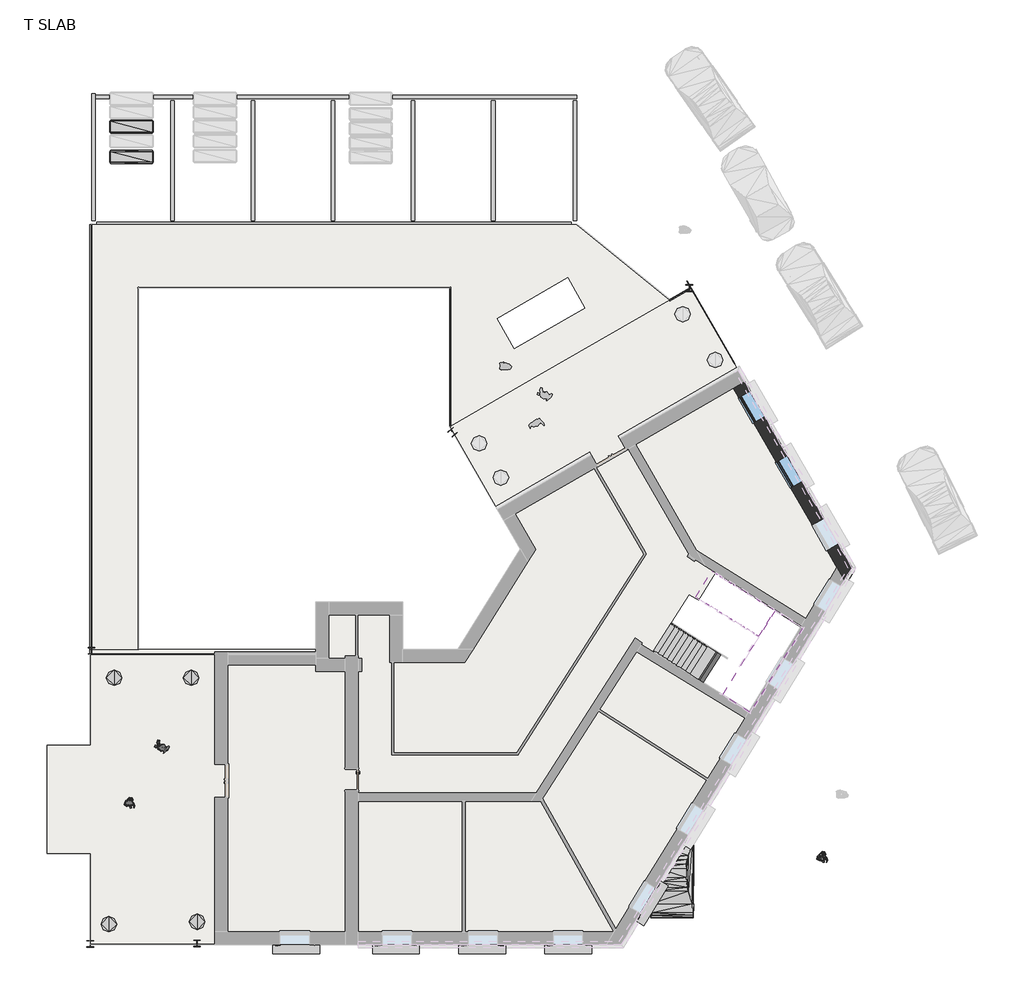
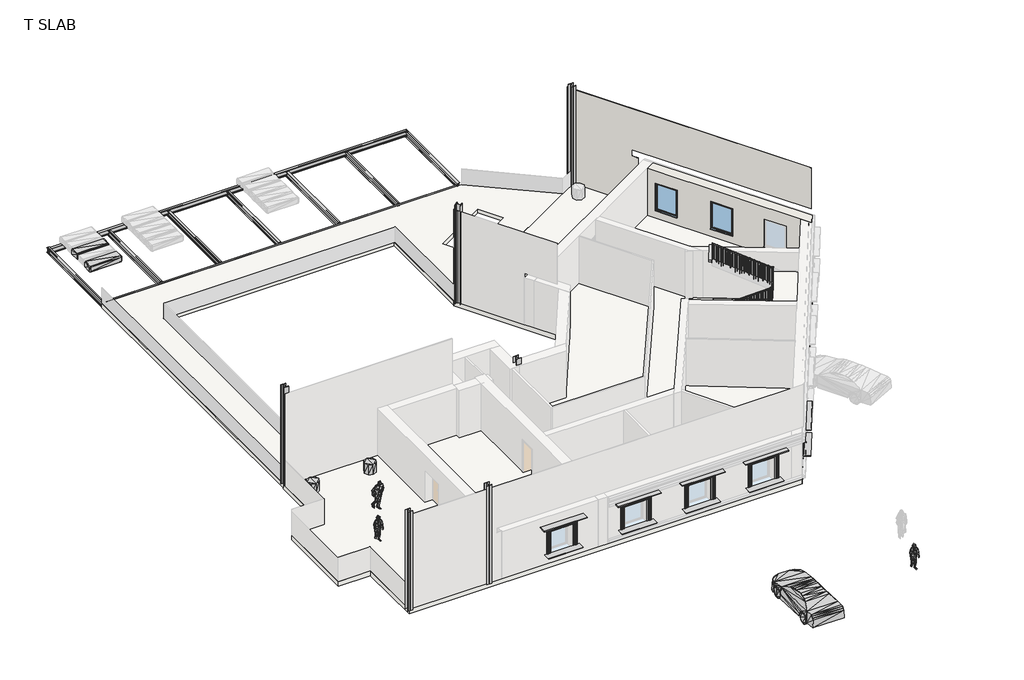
# One storey, part 2 of 3: 10 beams, 10 geographic elements, 6 columns, 5 proxies, 3 slabs, 2 stair flights, 2 walls, 2 windows, 1 railing.
"""IFC4 building model written with IfcOpenShell, lengths in millimetres."""

from ifc_helpers import new_model, si_unit, frame, origin, place, context, project, spatial, polyline, outline, extrude, faceted_brep, transform, mapped, element, save
from components import ub_universal_beams_ub305x165x40_099205f2, ub_universal_beams_ub305x165x40_a89eb652, ub_universal_beams_ub305x165x40_de42b84e, ub_universal_beams_ub305x165x40_bd95d4e6, type_1_d73fb033, uc_universal_columns_column_uc305x305x97_0a087ea8, uc_universal_columns_column_uc305x305x97_0b574c11, geographic_element_3335acbb, geographic_element_6e2c9092, geographic_element_3de9c337, geographic_element_529ebcd5, enscape_assetdefinition_car_003_enscape_assetdefinition_car_cb408bfd, slab_8b328c32, wood_steps_w_50mm_tread_10mm_nosing_13mm_riser_624c92ec, wood_steps_w_50mm_tread_10mm_nosing_13mm_riser_1bc18a41, windows_sgl_plain_1360x1210mm_ccfeedc9

model = new_model("IFC4")

# Units and contexts
model_context = context("Model", 3, world=origin())
ifc_project = project(units=[si_unit("LENGTHUNIT", "METRE", prefix="MILLI")], contexts=[model_context])

# Site, building, storey
site = spatial("IfcSite", under=ifc_project)
building = spatial("IfcBuilding", under=site)
storey = spatial("IfcBuildingStorey", under=building, Name="T SLAB", Elevation=11500.0)

# Beams
placement = place(None, origin())
ub_universal_beams_ub305x165x40_shape = ub_universal_beams_ub305x165x40_099205f2(model_context)
element("IfcBeam", 1, ObjectType="UB-Universal Beams : UB305x165x40", at=placement, inside=storey, context=model_context, shape_type="MappedRepresentation", body=[
    mapped(ub_universal_beams_ub305x165x40_shape, transform((-13277.0617256, 32121.0048994, 11348.3), x_axis=(0.0, -1.0, 0.0), y_axis=(1.0, 0.0, 0.0), z_axis=(0.0, 0.0, 1.0))),
])
ub_universal_beams_ub305x165x40_2_shape = ub_universal_beams_ub305x165x40_a89eb652(model_context)
element("IfcBeam", 2, ObjectType="UB-Universal Beams : UB305x165x40", at=placement, inside=storey, context=model_context, shape_type="MappedRepresentation", body=[
    mapped(ub_universal_beams_ub305x165x40_2_shape, transform((3293.8958184, 35051.9809735, 11348.3), x_axis=(1.0, 0.0, 0.0), y_axis=(0.0, 1.0, 0.0), z_axis=(0.0, 0.0, 1.0))),
])
ub_universal_beams_ub305x165x40_3_shape = ub_universal_beams_ub305x165x40_de42b84e(model_context)
element("IfcBeam", 3, ObjectType="UB-Universal Beams : UB305x165x40", at=placement, inside=storey, context=model_context, shape_type="MappedRepresentation", body=[
    mapped(ub_universal_beams_ub305x165x40_3_shape, transform((-2187.5596017, 29190.0288254, 11348.3), x_axis=(1.0, 0.0, 0.0), y_axis=(0.0, 1.0, 0.0), z_axis=(0.0, 0.0, 1.0))),
])
ub_universal_beams_ub305x165x40_4_shape = ub_universal_beams_ub305x165x40_bd95d4e6(model_context)
element("IfcBeam", 4, ObjectType="UB-Universal Beams : UB305x165x40", at=placement, inside=storey, context=model_context, shape_type="MappedRepresentation", body=[
    mapped(ub_universal_beams_ub305x165x40_4_shape, transform((-13277.0617256, 32121.0048994, 11348.3), x_axis=(0.0, -1.0, 0.0), y_axis=(1.0, 0.0, 0.0), z_axis=(0.0, 0.0, 1.0))),
])
element("IfcBeam", 5, ObjectType="UB-Universal Beams : UB305x165x40", at=placement, inside=storey, context=model_context, shape_type="MappedRepresentation", body=[
    mapped(ub_universal_beams_ub305x165x40_4_shape, transform((-9631.6874983, 32121.0048994, 11348.3), x_axis=(0.0, -1.0, 0.0), y_axis=(1.0, 0.0, 0.0), z_axis=(0.0, 0.0, 1.0))),
])
element("IfcBeam", 6, ObjectType="UB-Universal Beams : UB305x165x40", at=placement, inside=storey, context=model_context, shape_type="MappedRepresentation", body=[
    mapped(ub_universal_beams_ub305x165x40_4_shape, transform((-5929.1066547, 32121.0048994, 11348.3), x_axis=(0.0, -1.0, 0.0), y_axis=(1.0, 0.0, 0.0), z_axis=(0.0, 0.0, 1.0))),
])
element("IfcBeam", 7, ObjectType="UB-Universal Beams : UB305x165x40", at=placement, inside=storey, context=model_context, shape_type="MappedRepresentation", body=[
    mapped(ub_universal_beams_ub305x165x40_4_shape, transform((-2245.9725728, 32121.0048994, 11348.3), x_axis=(0.0, -1.0, 0.0), y_axis=(1.0, 0.0, 0.0), z_axis=(0.0, 0.0, 1.0))),
])
element("IfcBeam", 8, ObjectType="UB-Universal Beams : UB305x165x40", at=placement, inside=storey, context=model_context, shape_type="MappedRepresentation", body=[
    mapped(ub_universal_beams_ub305x165x40_4_shape, transform((1448.4037035, 32121.0048994, 11348.3), x_axis=(0.0, -1.0, 0.0), y_axis=(1.0, 0.0, 0.0), z_axis=(0.0, 0.0, 1.0))),
])
element("IfcBeam", 9, ObjectType="UB-Universal Beams : UB305x165x40", at=placement, inside=storey, context=model_context, shape_type="MappedRepresentation", body=[
    mapped(ub_universal_beams_ub305x165x40_4_shape, transform((5139.3879332, 32121.0048994, 11348.3), x_axis=(0.0, -1.0, 0.0), y_axis=(1.0, 0.0, 0.0), z_axis=(0.0, 0.0, 1.0))),
])
element("IfcBeam", 10, ObjectType="UB-Universal Beams : UB305x165x40", at=placement, inside=storey, context=model_context, shape_type="MappedRepresentation", body=[
    mapped(ub_universal_beams_ub305x165x40_4_shape, transform((8901.9425222, 32121.0048994, 11348.3), x_axis=(0.0, -1.0, 0.0), y_axis=(1.0, 0.0, 0.0), z_axis=(0.0, 0.0, 1.0))),
])

# Proxies
type_1_shape = type_1_d73fb033(model_context)
element("IfcBuildingElementProxy", 11, Name="Family1.rfa1222wcd31 : Type 1", ObjectType="Family1.rfa1222wcd31 : Type 1", at=placement, inside=storey, context=model_context, shape_type="MappedRepresentation", body=[
    mapped(type_1_shape, transform((787.4297578, -3709.9711746, 11250.0), x_axis=(-1.0, 0.0, 0.0), y_axis=(0.0, -1.0, 0.0), z_axis=(0.0, 0.0, 1.0))),
])
element("IfcBuildingElementProxy", 12, Name="Family1.rfa1222wcd31 : Type 1", ObjectType="Family1.rfa1222wcd31 : Type 1", at=placement, inside=storey, context=model_context, shape_type="MappedRepresentation", body=[
    mapped(type_1_shape, transform((4767.115647, -3709.9711746, 11250.0), x_axis=(-1.0, 0.0, 0.0), y_axis=(0.0, -1.0, 0.0), z_axis=(0.0, 0.0, 1.0))),
])
element("IfcBuildingElementProxy", 13, Name="Family1.rfa1222wcd31 : Type 1", ObjectType="Family1.rfa1222wcd31 : Type 1", at=placement, inside=storey, context=model_context, shape_type="MappedRepresentation", body=[
    mapped(type_1_shape, transform((8719.9297578, -3709.9711746, 11250.0), x_axis=(-1.0, 0.0, 0.0), y_axis=(0.0, -1.0, 0.0), z_axis=(0.0, 0.0, 1.0))),
])
element("IfcBuildingElementProxy", 14, Name="Family1.rfa1222wcd31 : Type 1", ObjectType="Family1.rfa1222wcd31 : Type 1", at=placement, inside=storey, context=model_context, shape_type="MappedRepresentation", body=[
    mapped(type_1_shape, transform((12078.6623921, -1732.8646574, 11250.0), x_axis=(-0.5221151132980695, -0.852875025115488, 0.0), y_axis=(0.852875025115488, -0.5221151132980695, 0.0), z_axis=(0.0, 0.0, 1.0))),
])
element("IfcBuildingElementProxy", 15, Name="Family1.rfa1222wcd31 : Type 1", ObjectType="Family1.rfa1222wcd31 : Type 1", at=placement, inside=storey, context=model_context, shape_type="MappedRepresentation", body=[
    mapped(type_1_shape, transform((-3812.5702422, -3709.9711746, 11250.0), x_axis=(-1.0, 0.0, 0.0), y_axis=(0.0, -1.0, 0.0), z_axis=(0.0, 0.0, 1.0))),
])

# Columns
uc_universal_columns_column_uc305x305x97_shape = uc_universal_columns_column_uc305x305x97_0a087ea8(model_context)
element("IfcColumn", 16, ObjectType="UC-Universal Columns-Column : UC305x305x97", at=placement, inside=storey, context=model_context, shape_type="MappedRepresentation", body=[
    mapped(uc_universal_columns_column_uc305x305x97_shape, transform((-13419.4830526, -3973.717828, 0.0), x_axis=(1.0, 0.0, 0.0), y_axis=(0.0, 1.0, 0.0), z_axis=(0.0, 0.0, 1.0))),
])
element("IfcColumn", 17, ObjectType="UC-Universal Columns-Column : UC305x305x97", at=placement, inside=storey, context=model_context, shape_type="MappedRepresentation", body=[
    mapped(uc_universal_columns_column_uc305x305x97_shape, transform((-8502.2047689, -3955.7715569, 0.0), x_axis=(1.0, 0.0, 0.0), y_axis=(0.0, 1.0, 0.0), z_axis=(0.0, 0.0, 1.0))),
])
element("IfcColumn", 18, ObjectType="UC-Universal Columns-Column : UC305x305x97", at=placement, inside=storey, context=model_context, shape_type="MappedRepresentation", body=[
    mapped(uc_universal_columns_column_uc305x305x97_shape, transform((14168.507551, 26241.6477094, 0.0), x_axis=(1.0, 0.0, 0.0), y_axis=(0.0, 1.0, 0.0), z_axis=(0.0, 0.0, 1.0))),
])
element("IfcColumn", 19, ObjectType="UC-Universal Columns-Column : UC305x305x97", at=placement, inside=storey, context=model_context, shape_type="MappedRepresentation", body=[
    mapped(uc_universal_columns_column_uc305x305x97_shape, transform((3271.8201957, 19603.9657214, 0.0), x_axis=(0.7605099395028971, 0.6493262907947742, 0.0), y_axis=(-0.6493262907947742, 0.7605099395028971, 0.0), z_axis=(0.0, 0.0, 1.0))),
])
element("IfcColumn", 20, ObjectType="UC-Universal Columns-Column : UC305x305x97", at=placement, inside=storey, context=model_context, shape_type="MappedRepresentation", body=[
    mapped(uc_universal_columns_column_uc305x305x97_shape, transform((-13356.6874983, 9535.0288254, 0.0), x_axis=(1.0, 0.0, 0.0), y_axis=(0.0, 1.0, 0.0), z_axis=(0.0, 0.0, 1.0))),
])
uc_universal_columns_column_uc305x305x97_2_shape = uc_universal_columns_column_uc305x305x97_0b574c11(model_context)
element("IfcColumn", 21, ObjectType="UC-Universal Columns-Column : UC305x305x97", at=placement, inside=storey, context=model_context, shape_type="MappedRepresentation", body=[
    mapped(uc_universal_columns_column_uc305x305x97_2_shape, transform((960.5515361, 9275.0288254, 0.0), x_axis=(1.0, 0.0, 0.0), y_axis=(0.0, 1.0, 0.0), z_axis=(0.0, 0.0, 1.0))),
])

# Geographic elements
geographic_element_shape = geographic_element_3335acbb(model_context)
element("IfcGeographicElement", 22, ObjectType="Enscape AssetDefinition - Bush 015 English Laurel : Enscape AssetDefinition - Bush 015 English Laurel", at=placement, inside=storey, context=model_context, shape_type="MappedRepresentation", body=[
    mapped(geographic_element_shape, transform((-8771.6874983, 8290.0288254, 11500.0), x_axis=(1.0, 0.0, 0.0), y_axis=(0.0, 1.0, 0.0), z_axis=(0.0, 0.0, 1.0))),
])
element("IfcGeographicElement", 23, ObjectType="Enscape AssetDefinition - Bush 015 English Laurel : Enscape AssetDefinition - Bush 015 English Laurel", at=placement, inside=storey, context=model_context, shape_type="MappedRepresentation", body=[
    mapped(geographic_element_shape, transform((-8500.1805756, -2954.7532478, 11500.0), x_axis=(1.0, 0.0, 0.0), y_axis=(0.0, 1.0, 0.0), z_axis=(0.0, 0.0, 1.0))),
])
element("IfcGeographicElement", 24, ObjectType="Enscape AssetDefinition - Bush 015 English Laurel : Enscape AssetDefinition - Bush 015 English Laurel", at=placement, inside=storey, context=model_context, shape_type="MappedRepresentation", body=[
    mapped(geographic_element_shape, transform((-12321.6874983, 8290.0288254, 11500.0), x_axis=(1.0, 0.0, 0.0), y_axis=(0.0, 1.0, 0.0), z_axis=(0.0, 0.0, 1.0))),
])
element("IfcGeographicElement", 25, ObjectType="Enscape AssetDefinition - Bush 015 English Laurel : Enscape AssetDefinition - Bush 015 English Laurel", at=placement, inside=storey, context=model_context, shape_type="MappedRepresentation", body=[
    mapped(geographic_element_shape, transform((-12561.6874983, -3059.4778598, 11500.0), x_axis=(1.0, 0.0, 0.0), y_axis=(0.0, 1.0, 0.0), z_axis=(0.0, 0.0, 1.0))),
])
geographic_element_2_shape = geographic_element_6e2c9092(model_context)
element("IfcGeographicElement", 26, ObjectType="Enscape AssetDefinition - Hedge 006 English Laurel : Enscape AssetDefinition - Hedge 006 English Laurel", at=placement, inside=storey, context=model_context, shape_type="MappedRepresentation", body=[
    mapped(geographic_element_2_shape, transform((-11521.6874983, 33675.6346481, 11500.0), x_axis=(1.0, 0.0, 0.0), y_axis=(0.0, 1.0, 0.0), z_axis=(0.0, 0.0, 1.0))),
])
element("IfcGeographicElement", 27, ObjectType="Enscape AssetDefinition - Hedge 006 English Laurel : Enscape AssetDefinition - Hedge 006 English Laurel", at=placement, inside=storey, context=model_context, shape_type="MappedRepresentation", body=[
    mapped(geographic_element_2_shape, transform((-11521.6874983, 32287.4411665, 11500.0), x_axis=(1.0, 0.0, 0.0), y_axis=(0.0, 1.0, 0.0), z_axis=(0.0, 0.0, 1.0))),
])
geographic_element_3_shape = geographic_element_3de9c337(model_context)
element("IfcGeographicElement", 28, ObjectType="Enscape AssetDefinition - Alex 004 Walking : Enscape AssetDefinition - Alex 004 Walking", at=placement, inside=storey, context=model_context, shape_type="MappedRepresentation", body=[
    mapped(geographic_element_3_shape, transform((-10131.6874983, 5105.5548037, 11500.0), x_axis=(1.0, 0.0, 0.0), y_axis=(0.0, 1.0, 0.0), z_axis=(0.0, 0.0, 1.0))),
])
geographic_element_4_shape = geographic_element_529ebcd5(model_context)
element("IfcGeographicElement", 29, ObjectType="Enscape AssetDefinition - Adrian 001 Walking : Enscape AssetDefinition - Adrian 001 Walking", at=placement, inside=storey, context=model_context, shape_type="MappedRepresentation", body=[
    mapped(geographic_element_4_shape, transform((20272.2816032, -8.5856433, 0.0), x_axis=(1.0, 0.0, 0.0), y_axis=(0.0, 1.0, 0.0), z_axis=(0.0, 0.0, 1.0))),
])
element("IfcGeographicElement", 30, ObjectType="Enscape AssetDefinition - Adrian 001 Walking : Enscape AssetDefinition - Adrian 001 Walking", at=placement, inside=storey, context=model_context, shape_type="MappedRepresentation", body=[
    mapped(geographic_element_4_shape, transform((-11631.6874983, 2490.0288254, 11500.0), x_axis=(1.0, 0.0, 0.0), y_axis=(0.0, 1.0, 0.0), z_axis=(0.0, 0.0, 1.0))),
])
enscape_assetdefinition_car_003_enscape_assetdefinition_car_shape = enscape_assetdefinition_car_003_enscape_assetdefinition_car_cb408bfd(model_context)
element("IfcGeographicElement", 31, ObjectType="Enscape AssetDefinition - Car 003 : Enscape AssetDefinition - Car 003", at=placement, inside=storey, context=model_context, shape_type="MappedRepresentation", body=[
    mapped(enscape_assetdefinition_car_003_enscape_assetdefinition_car_shape, transform((13376.1537285, -251.7465763, 150.0), x_axis=(1.0, 0.0, 0.0), y_axis=(0.0, 1.0, 0.0), z_axis=(0.0, 0.0, 1.0))),
])

# Railing
element("IfcRailing", 32, ObjectType="1100mm", at=placement, inside=storey, context=model_context, shape_type="SolidModel", body=[
    faceted_brep([(13333.5556228, 10803.2703088, 12716.6666667), (13333.5556228, 10803.2703088, 12661.4901821), (13306.6212841, 10761.1450029, 12661.4901821), (13306.6212841, 10761.1450029, 12716.6666667), (16438.4946314, 8818.015197, 14436.5016991), (16480.6199373, 8791.0808583, 14404.6585479), (16453.6855986, 8748.9555524, 14404.6585479), (16411.5602927, 8775.8898911, 14436.5016991), (16540.9350893, 8841.1799082, 14416.6666667), (16540.9350893, 8841.1799082, 14466.6666667), (17343.7998158, 10129.9384417, 14466.6666667), (17370.2379456, 10172.3769301, 14416.6666667), (16583.3735776, 8814.7417785, 14416.6666667), (17412.676434, 10145.9388003, 14416.6666667), (16583.3735776, 8814.7417785, 14466.6666667), (17386.2383042, 10103.5003119, 14466.6666667), (17343.7998158, 10129.9384417, 14618.1466667), (17370.2379456, 10172.3769301, 14568.1466667), (17412.676434, 10145.9388003, 14568.1466667), (17386.2383042, 10103.5003119, 14618.1466667), (17383.4570105, 10193.5961742, 14618.1466667), (17383.4570105, 10193.5961742, 14568.1466667), (17452.3336286, 10209.5965328, 14568.1466667), (17452.3336286, 10209.5965328, 14618.1466667), (17319.7992779, 10233.2533689, 14618.1466667), (17310.3843274, 10239.1186504, 14568.1466667), (17336.8224572, 10281.5571388, 14568.1466667), (17346.2374077, 10275.6918572, 14618.1466667), (14624.6157593, 11912.2861144, 16100.0), (14651.053889, 11954.7246028, 16100.0), (14651.053889, 11954.7246028, 16044.8235155), (14624.6157593, 11912.2861144, 16044.8235155), (16438.4946314, 8818.015197, 14466.6666667), (16480.6199373, 8791.0808583, 14416.6666667), (16453.6855986, 8748.9555524, 14416.6666667), (16411.5602927, 8775.8898911, 14466.6666667), (16501.4339457, 8777.7726689, 14466.6666667), (16501.4339457, 8777.7726689, 14416.6666667), (16517.1222021, 8708.3950644, 14416.6666667), (16517.1222021, 8708.3950644, 14466.6666667)], [[[0, 1, 2, 3]], [[1, 0, 4, 5]], [[2, 1, 5, 6]], [[3, 2, 6, 7]], [[0, 3, 7, 4]], [[8, 9, 10, 11]], [[12, 8, 11, 13]], [[14, 12, 13, 15]], [[9, 14, 15, 10]], [[11, 10, 16, 17]], [[13, 11, 17, 18]], [[15, 13, 18, 19]], [[10, 15, 19, 16]], [[17, 16, 20, 21]], [[18, 17, 21, 22]], [[19, 18, 22, 23]], [[16, 19, 23, 20]], [[21, 20, 24, 25]], [[22, 21, 25, 26]], [[23, 22, 26, 27]], [[20, 23, 27, 24]], [[28, 29, 30, 31]], [[25, 24, 28, 31]], [[26, 25, 31, 30]], [[27, 26, 30, 29]], [[24, 27, 29, 28]], [[5, 4, 32, 33]], [[6, 5, 33, 34]], [[7, 6, 34, 35]], [[4, 7, 35, 32]], [[33, 32, 36, 37]], [[34, 33, 37, 38]], [[35, 34, 38, 39]], [[32, 35, 39, 36]], [[37, 36, 9, 8]], [[38, 37, 8, 12]], [[39, 38, 12, 14]], [[36, 39, 14, 9]]]),
    extrude(outline(polyline([(105.8333334, 0.0), (94.1666667, 24.9999999), (1220.4701822, 24.9999999), (1220.4701822, 0.0), (105.8333334, 0.0)])), frame((14716.4417763, 11869.807972, 16103.8035155), z_axis=(0.5287625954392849, 0.8487697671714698, 0.0), x_axis=(0.0, 0.0, -1.0)), (0.0, 0.0, 1.0), 25.0),
    extrude(outline(polyline([(105.8333333, 0.0), (94.1666666, 24.9999999), (1162.1368488, 24.9999999), (1162.1368488, 0.0), (105.8333333, 0.0)])), frame((14822.5379972, 11803.7126475, 16045.4701821), z_axis=(0.5287625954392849, 0.8487697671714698, 0.0), x_axis=(0.0, 0.0, -1.0)), (0.0, 0.0, 1.0), 25.0),
    extrude(outline(polyline([(105.8333333, 0.0), (94.1666667, 25.0), (1220.4701821, 25.0), (1220.4701821, 0.0), (105.8333333, 0.0)])), frame((14928.6342181, 11737.6173231, 15987.1368488), z_axis=(0.5287625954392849, 0.8487697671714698, 0.0), x_axis=(0.0, 0.0, -1.0)), (0.0, 0.0, 1.0), 25.0),
    extrude(outline(polyline([(105.8333334, 0.0), (94.1666667, 25.0), (1162.1368488, 25.0), (1162.1368488, 0.0), (105.8333334, 0.0)])), frame((15034.730439, 11671.5219987, 15928.8035155), z_axis=(0.5287625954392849, 0.8487697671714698, 0.0), x_axis=(0.0, 0.0, -1.0)), (0.0, 0.0, 1.0), 25.0),
    extrude(outline(polyline([(105.8333333, 0.0), (94.1666666, 25.0), (1220.4701821, 25.0), (1220.4701821, 0.0), (105.8333333, 0.0)])), frame((15140.8266599, 11605.4266742, 15870.4701821), z_axis=(0.5287625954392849, 0.8487697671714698, 0.0), x_axis=(0.0, 0.0, -1.0)), (0.0, 0.0, 1.0), 25.0),
    extrude(outline(polyline([(105.8333333, 0.0), (94.1666667, 25.0), (1162.1368488, 25.0), (1162.1368488, 0.0), (105.8333333, 0.0)])), frame((15246.9228808, 11539.3313498, 15812.1368488), z_axis=(0.5287625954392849, 0.8487697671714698, 0.0), x_axis=(0.0, 0.0, -1.0)), (0.0, 0.0, 1.0), 25.0),
    extrude(outline(polyline([(105.8333334, 0.0), (94.1666667, 25.0), (1220.4701822, 25.0), (1220.4701822, 0.0), (105.8333334, 0.0)])), frame((15353.0191017, 11473.2360254, 15753.8035155), z_axis=(0.5287625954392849, 0.8487697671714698, 0.0), x_axis=(0.0, 0.0, -1.0)), (0.0, 0.0, 1.0), 25.0),
    extrude(outline(polyline([(105.8333333, 0.0), (94.1666666, 25.0), (1162.1368488, 25.0), (1162.1368488, 0.0), (105.8333333, 0.0)])), frame((15459.1153226, 11407.1407009, 15695.4701821), z_axis=(0.5287625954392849, 0.8487697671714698, 0.0), x_axis=(0.0, 0.0, -1.0)), (0.0, 0.0, 1.0), 25.0),
    extrude(outline(polyline([(105.8333333, 0.0), (94.1666667, 25.0), (1220.4701821, 25.0), (1220.4701821, 0.0), (105.8333333, 0.0)])), frame((15565.2115435, 11341.0453765, 15637.1368488), z_axis=(0.5287625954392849, 0.8487697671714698, 0.0), x_axis=(0.0, 0.0, -1.0)), (0.0, 0.0, 1.0), 25.0),
    extrude(outline(polyline([(105.8333334, 0.0), (94.1666667, 25.0), (1162.1368488, 25.0), (1162.1368488, 0.0), (105.8333334, 0.0)])), frame((15671.3077644, 11274.9500521, 15578.8035155), z_axis=(0.5287625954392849, 0.8487697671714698, 0.0), x_axis=(0.0, 0.0, -1.0)), (0.0, 0.0, 1.0), 25.0),
    extrude(outline(polyline([(105.8333333, 0.0), (94.1666666, 25.0), (1220.4701821, 25.0), (1220.4701821, 0.0), (105.8333333, 0.0)])), frame((15777.4039853, 11208.8547277, 15520.4701821), z_axis=(0.5287625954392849, 0.8487697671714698, 0.0), x_axis=(0.0, 0.0, -1.0)), (0.0, 0.0, 1.0), 25.0),
    extrude(outline(polyline([(105.8333333, 0.0), (94.1666667, 25.0), (1162.1368488, 25.0), (1162.1368488, 0.0), (105.8333333, 0.0)])), frame((15883.5002062, 11142.7594032, 15462.1368488), z_axis=(0.5287625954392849, 0.8487697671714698, 0.0), x_axis=(0.0, 0.0, -1.0)), (0.0, 0.0, 1.0), 25.0),
    extrude(outline(polyline([(105.8333334, 0.0), (94.1666667, 25.0), (1220.4701822, 25.0), (1220.4701822, 0.0), (105.8333334, 0.0)])), frame((15989.5964271, 11076.6640788, 15403.8035155), z_axis=(0.5287625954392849, 0.8487697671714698, 0.0), x_axis=(0.0, 0.0, -1.0)), (0.0, 0.0, 1.0), 25.0),
    extrude(outline(polyline([(105.8333333, 0.0), (94.1666666, 25.0), (1162.1368488, 25.0), (1162.1368488, 0.0), (105.8333333, 0.0)])), frame((16095.692648, 11010.5687544, 15345.4701821), z_axis=(0.5287625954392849, 0.8487697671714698, 0.0), x_axis=(0.0, 0.0, -1.0)), (0.0, 0.0, 1.0), 25.0),
    extrude(outline(polyline([(105.8333333, 0.0), (94.1666667, 25.0), (1220.4701821, 25.0), (1220.4701821, 0.0), (105.8333333, 0.0)])), frame((16201.7888689, 10944.4734299, 15287.1368488), z_axis=(0.5287625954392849, 0.8487697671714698, 0.0), x_axis=(0.0, 0.0, -1.0)), (0.0, 0.0, 1.0), 25.0),
    extrude(outline(polyline([(105.8333334, 0.0), (94.1666667, 25.0), (1162.1368488, 25.0), (1162.1368488, 0.0), (105.8333334, 0.0)])), frame((16307.8850898, 10878.3781055, 15228.8035155), z_axis=(0.5287625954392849, 0.8487697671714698, 0.0), x_axis=(0.0, 0.0, -1.0)), (0.0, 0.0, 1.0), 25.0),
    extrude(outline(polyline([(105.8333333, 0.0), (94.1666666, 25.0), (1220.4701821, 25.0), (1220.4701821, 0.0), (105.8333333, 0.0)])), frame((16413.9813107, 10812.2827811, 15170.4701821), z_axis=(0.5287625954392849, 0.8487697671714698, 0.0), x_axis=(0.0, 0.0, -1.0)), (0.0, 0.0, 1.0), 25.0),
    extrude(outline(polyline([(105.8333333, 0.0), (94.1666667, 25.0), (1162.1368488, 25.0), (1162.1368488, 0.0), (105.8333333, 0.0)])), frame((16520.0775316, 10746.1874566, 15112.1368488), z_axis=(0.5287625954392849, 0.8487697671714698, 0.0), x_axis=(0.0, 0.0, -1.0)), (0.0, 0.0, 1.0), 25.0),
    extrude(outline(polyline([(105.8333334, 0.0), (94.1666667, 25.0), (1220.4701822, 25.0), (1220.4701822, 0.0), (105.8333334, 0.0)])), frame((16626.1737525, 10680.0921322, 15053.8035155), z_axis=(0.5287625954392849, 0.8487697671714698, 0.0), x_axis=(0.0, 0.0, -1.0)), (0.0, 0.0, 1.0), 25.0),
    extrude(outline(polyline([(105.8333333, 0.0), (94.1666666, 25.0), (1162.1368488, 25.0), (1162.1368488, 0.0), (105.8333333, 0.0)])), frame((16732.2699734, 10613.9968078, 14995.4701821), z_axis=(0.5287625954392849, 0.8487697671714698, 0.0), x_axis=(0.0, 0.0, -1.0)), (0.0, 0.0, 1.0), 25.0),
    extrude(outline(polyline([(105.8333333, 0.0), (94.1666667, 25.0), (1220.4701821, 25.0), (1220.4701821, 0.0), (105.8333333, 0.0)])), frame((16838.3661943, 10547.9014834, 14937.1368488), z_axis=(0.5287625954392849, 0.8487697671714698, 0.0), x_axis=(0.0, 0.0, -1.0)), (0.0, 0.0, 1.0), 25.0),
    extrude(outline(polyline([(105.8333334, 0.0), (94.1666667, 25.0), (1162.1368488, 25.0), (1162.1368488, 0.0), (105.8333334, 0.0)])), frame((16944.4624152, 10481.8061589, 14878.8035155), z_axis=(0.5287625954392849, 0.8487697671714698, 0.0), x_axis=(0.0, 0.0, -1.0)), (0.0, 0.0, 1.0), 25.0),
    extrude(outline(polyline([(105.8333333, 0.0), (94.1666666, 25.0), (1220.4701821, 25.0), (1220.4701821, 0.0), (105.8333333, 0.0)])), frame((17050.5586361, 10415.7108345, 14820.4701821), z_axis=(0.5287625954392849, 0.8487697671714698, 0.0), x_axis=(0.0, 0.0, -1.0)), (0.0, 0.0, 1.0), 25.0),
    extrude(outline(polyline([(105.8333333, 0.0), (94.1666667, 25.0), (1162.1368488, 25.0), (1162.1368488, 0.0), (105.8333333, 0.0)])), frame((17156.654857, 10349.6155101, 14762.1368488), z_axis=(0.5287625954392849, 0.8487697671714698, 0.0), x_axis=(0.0, 0.0, -1.0)), (0.0, 0.0, 1.0), 25.0),
    extrude(outline(polyline([(105.8333334, 0.0), (94.1666667, 24.9999999), (1220.4701822, 24.9999999), (1220.4701822, 0.0), (105.8333334, 0.0)])), frame((17262.7510778, 10283.5201856, 14703.8035155), z_axis=(0.5287625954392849, 0.8487697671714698, 0.0), x_axis=(0.0, 0.0, -1.0)), (0.0, 0.0, 1.0), 25.0),
    extrude(outline(polyline([(17368.8472987, 10217.4248612), (17347.6280546, 10230.6439261), (17360.8471195, 10251.8631703), (17382.0663636, 10238.6441054), (17368.8472987, 10217.4248612)])), frame((0.0, 0.0, 13483.3333333), z_axis=(0.0, 0.0, 1.0), x_axis=(1.0, 0.0, 0.0)), (0.0, 0.0, 1.0), 1084.8133333),
    extrude(outline(polyline([(17384.3457992, 10171.3827591), (17397.564864, 10192.6020033), (17418.7841082, 10179.3829384), (17405.5650433, 10158.1636942), (17384.3457992, 10171.3827591)])), frame((0.0, 0.0, 13366.6666667), z_axis=(0.0, 0.0, 1.0), x_axis=(1.0, 0.0, 0.0)), (0.0, 0.0, 1.0), 1201.48),
    extrude(outline(polyline([(17318.2504747, 10065.2865382), (17331.4695396, 10086.5057824), (17352.6887838, 10073.2867175), (17339.4697189, 10052.0674733), (17318.2504747, 10065.2865382)])), frame((0.0, 0.0, 13366.6666667), z_axis=(0.0, 0.0, 1.0), x_axis=(1.0, 0.0, 0.0)), (0.0, 0.0, 1.0), 1050.0),
    extrude(outline(polyline([(17252.1551503, 9959.1903173), (17265.3742152, 9980.4095615), (17286.5934594, 9967.1904966), (17273.3743945, 9945.9712524), (17252.1551503, 9959.1903173)])), frame((0.0, 0.0, 13366.6666667), z_axis=(0.0, 0.0, 1.0), x_axis=(1.0, 0.0, 0.0)), (0.0, 0.0, 1.0), 1050.0),
    extrude(outline(polyline([(17186.0598259, 9853.0940964), (17199.2788908, 9874.3133406), (17220.4981349, 9861.0942757), (17207.27907, 9839.8750315), (17186.0598259, 9853.0940964)])), frame((0.0, 0.0, 13366.6666667), z_axis=(0.0, 0.0, 1.0), x_axis=(1.0, 0.0, 0.0)), (0.0, 0.0, 1.0), 1050.0),
    extrude(outline(polyline([(17119.9645014, 9746.9978755), (17133.1835663, 9768.2171197), (17154.4028105, 9754.9980548), (17141.1837456, 9733.7788106), (17119.9645014, 9746.9978755)])), frame((0.0, 0.0, 13366.6666667), z_axis=(0.0, 0.0, 1.0), x_axis=(1.0, 0.0, 0.0)), (0.0, 0.0, 1.0), 1050.0),
    extrude(outline(polyline([(17053.869177, 9640.9016546), (17067.0882419, 9662.1208988), (17088.3074861, 9648.9018339), (17075.0884212, 9627.6825897), (17053.869177, 9640.9016546)])), frame((0.0, 0.0, 13366.6666667), z_axis=(0.0, 0.0, 1.0), x_axis=(1.0, 0.0, 0.0)), (0.0, 0.0, 1.0), 1050.0),
    extrude(outline(polyline([(16987.7738526, 9534.8054337), (17000.9929175, 9556.0246779), (17022.2121616, 9542.805613), (17008.9930968, 9521.5863688), (16987.7738526, 9534.8054337)])), frame((0.0, 0.0, 13366.6666667), z_axis=(0.0, 0.0, 1.0), x_axis=(1.0, 0.0, 0.0)), (0.0, 0.0, 1.0), 1050.0),
    extrude(outline(polyline([(16921.6785281, 9428.7092128), (16934.897593, 9449.928457), (16956.1168372, 9436.7093921), (16942.8977723, 9415.4901479), (16921.6785281, 9428.7092128)])), frame((0.0, 0.0, 13366.6666667), z_axis=(0.0, 0.0, 1.0), x_axis=(1.0, 0.0, 0.0)), (0.0, 0.0, 1.0), 1050.0),
    extrude(outline(polyline([(16855.5832037, 9322.6129919), (16868.8022686, 9343.8322361), (16890.0215128, 9330.6131712), (16876.8024479, 9309.393927), (16855.5832037, 9322.6129919)])), frame((0.0, 0.0, 13366.6666667), z_axis=(0.0, 0.0, 1.0), x_axis=(1.0, 0.0, 0.0)), (0.0, 0.0, 1.0), 1050.0),
    extrude(outline(polyline([(16789.4878793, 9216.516771), (16802.7069442, 9237.7360152), (16823.9261884, 9224.5169503), (16810.7071235, 9203.2977061), (16789.4878793, 9216.516771)])), frame((0.0, 0.0, 13366.6666667), z_axis=(0.0, 0.0, 1.0), x_axis=(1.0, 0.0, 0.0)), (0.0, 0.0, 1.0), 1050.0),
    extrude(outline(polyline([(16723.3925549, 9110.4205501), (16736.6116197, 9131.6397943), (16757.8308639, 9118.4207294), (16744.611799, 9097.2014852), (16723.3925549, 9110.4205501)])), frame((0.0, 0.0, 13366.6666667), z_axis=(0.0, 0.0, 1.0), x_axis=(1.0, 0.0, 0.0)), (0.0, 0.0, 1.0), 1050.0),
    extrude(outline(polyline([(16657.2972304, 9004.3243292), (16670.5162953, 9025.5435734), (16691.7355395, 9012.3245085), (16678.5164746, 8991.1052643), (16657.2972304, 9004.3243292)])), frame((0.0, 0.0, 13366.6666667), z_axis=(0.0, 0.0, 1.0), x_axis=(1.0, 0.0, 0.0)), (0.0, 0.0, 1.0), 1050.0),
    extrude(outline(polyline([(16591.201906, 8898.2281083), (16604.4209709, 8919.4473525), (16625.6402151, 8906.2282876), (16612.4211502, 8885.0090434), (16591.201906, 8898.2281083)])), frame((0.0, 0.0, 13366.6666667), z_axis=(0.0, 0.0, 1.0), x_axis=(1.0, 0.0, 0.0)), (0.0, 0.0, 1.0), 1050.0),
    extrude(outline(polyline([(16525.1065816, 8792.1318874), (16538.3256465, 8813.3511316), (16559.5448906, 8800.1320667), (16546.3258257, 8778.9128226), (16525.1065816, 8792.1318874)])), frame((0.0, 0.0, 13366.6666667), z_axis=(0.0, 0.0, 1.0), x_axis=(1.0, 0.0, 0.0)), (0.0, 0.0, 1.0), 1050.0),
    extrude(outline(polyline([(16423.0320231, 8813.0650877), (16444.094676, 8799.5979183), (16430.6275067, 8778.5352653), (16409.5648537, 8792.0024347), (16423.0320231, 8813.0650877)])), frame((0.0, 0.0, 13250.0), z_axis=(0.0, 0.0, 1.0), x_axis=(1.0, 0.0, 0.0)), (0.0, 0.0, 1.0), 1166.6666667),
    extrude(outline(polyline([(1173.9901821, 25.0000001), (1173.9901821, 0.0), (94.1666666, 0.0), (105.8333333, 25.0000001), (1173.9901821, 25.0000001)])), frame((16325.3142419, 8845.8711121, 14423.9901821), z_axis=(0.5386867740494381, 0.8425061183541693, 0.0), x_axis=(0.0, 0.0, -1.0)), (0.0, 0.0, 1.0), 25.0),
    extrude(outline(polyline([(1232.3235155, 25.0), (1232.3235155, 0.0), (94.1666667, 0.0), (105.8333333, 25.0), (1232.3235155, 25.0)])), frame((16220.0009771, 8913.2069589, 14365.6568488), z_axis=(0.5386867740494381, 0.8425061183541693, 0.0), x_axis=(0.0, 0.0, -1.0)), (0.0, 0.0, 1.0), 25.0),
    extrude(outline(polyline([(1173.9901822, 25.0), (1173.9901822, 0.0), (94.1666667, 0.0), (105.8333334, 25.0), (1173.9901822, 25.0)])), frame((16114.6877123, 8980.5428056, 14307.3235155), z_axis=(0.5386867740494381, 0.8425061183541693, 0.0), x_axis=(0.0, 0.0, -1.0)), (0.0, 0.0, 1.0), 25.0),
    extrude(outline(polyline([(1232.3235154, 24.9999999), (1232.3235154, 0.0), (94.1666666, 0.0), (105.8333333, 24.9999999), (1232.3235154, 24.9999999)])), frame((16009.3744475, 9047.8786524, 14248.9901821), z_axis=(0.5386867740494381, 0.8425061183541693, 0.0), x_axis=(0.0, 0.0, -1.0)), (0.0, 0.0, 1.0), 25.0),
    extrude(outline(polyline([(1173.9901821, 25.0), (1173.9901821, 0.0), (94.1666667, 0.0), (105.8333333, 25.0), (1173.9901821, 25.0)])), frame((15904.0611827, 9115.2144991, 14190.6568488), z_axis=(0.5386867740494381, 0.8425061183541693, 0.0), x_axis=(0.0, 0.0, -1.0)), (0.0, 0.0, 1.0), 25.0),
    extrude(outline(polyline([(1232.3235155, 24.9999999), (1232.3235155, 0.0), (94.1666667, 0.0), (105.8333334, 24.9999999), (1232.3235155, 24.9999999)])), frame((15798.7479179, 9182.5503459, 14132.3235155), z_axis=(0.5386867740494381, 0.8425061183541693, 0.0), x_axis=(0.0, 0.0, -1.0)), (0.0, 0.0, 1.0), 25.0),
    extrude(outline(polyline([(1173.9901821, 25.0), (1173.9901821, 0.0), (94.1666666, 0.0), (105.8333333, 25.0), (1173.9901821, 25.0)])), frame((15693.4346531, 9249.8861926, 14073.9901821), z_axis=(0.5386867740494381, 0.8425061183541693, 0.0), x_axis=(0.0, 0.0, -1.0)), (0.0, 0.0, 1.0), 25.0),
    extrude(outline(polyline([(1232.3235155, 24.9999999), (1232.3235155, 0.0), (94.1666667, 0.0), (105.8333333, 24.9999999), (1232.3235155, 24.9999999)])), frame((15588.1213883, 9317.2220394, 14015.6568488), z_axis=(0.5386867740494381, 0.8425061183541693, 0.0), x_axis=(0.0, 0.0, -1.0)), (0.0, 0.0, 1.0), 25.0),
    extrude(outline(polyline([(1173.9901822, 24.9999999), (1173.9901822, 0.0), (94.1666667, 0.0), (105.8333334, 24.9999999), (1173.9901822, 24.9999999)])), frame((15482.8081235, 9384.5578862, 13957.3235155), z_axis=(0.5386867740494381, 0.8425061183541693, 0.0), x_axis=(0.0, 0.0, -1.0)), (0.0, 0.0, 1.0), 25.0),
    extrude(outline(polyline([(1232.3235154, 25.0), (1232.3235154, 0.0), (94.1666666, 0.0), (105.8333333, 25.0), (1232.3235154, 25.0)])), frame((15377.4948587, 9451.8937329, 13898.9901821), z_axis=(0.5386867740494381, 0.8425061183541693, 0.0), x_axis=(0.0, 0.0, -1.0)), (0.0, 0.0, 1.0), 25.0),
    extrude(outline(polyline([(1173.9901821, 25.0), (1173.9901821, 0.0), (94.1666667, 0.0), (105.8333333, 25.0), (1173.9901821, 25.0)])), frame((15272.181594, 9519.2295797, 13840.6568488), z_axis=(0.5386867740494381, 0.8425061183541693, 0.0), x_axis=(0.0, 0.0, -1.0)), (0.0, 0.0, 1.0), 25.0),
    extrude(outline(polyline([(1232.3235155, 25.0000001), (1232.3235155, 0.0), (94.1666667, 0.0), (105.8333334, 25.0000001), (1232.3235155, 25.0000001)])), frame((15166.8683292, 9586.5654264, 13782.3235155), z_axis=(0.5386867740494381, 0.8425061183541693, 0.0), x_axis=(0.0, 0.0, -1.0)), (0.0, 0.0, 1.0), 25.0),
    extrude(outline(polyline([(1173.9901821, 25.0), (1173.9901821, 0.0), (94.1666666, 0.0), (105.8333333, 25.0), (1173.9901821, 25.0)])), frame((15061.5550644, 9653.9012732, 13723.9901821), z_axis=(0.5386867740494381, 0.8425061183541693, 0.0), x_axis=(0.0, 0.0, -1.0)), (0.0, 0.0, 1.0), 25.0),
    extrude(outline(polyline([(1232.3235155, 25.0000001), (1232.3235155, 0.0), (94.1666667, 0.0), (105.8333333, 25.0000001), (1232.3235155, 25.0000001)])), frame((14956.2417996, 9721.2371199, 13665.6568488), z_axis=(0.5386867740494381, 0.8425061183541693, 0.0), x_axis=(0.0, 0.0, -1.0)), (0.0, 0.0, 1.0), 25.0),
    extrude(outline(polyline([(1173.9901822, 25.0), (1173.9901822, 0.0), (94.1666667, 0.0), (105.8333334, 25.0), (1173.9901822, 25.0)])), frame((14850.9285348, 9788.5729667, 13607.3235155), z_axis=(0.5386867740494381, 0.8425061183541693, 0.0), x_axis=(0.0, 0.0, -1.0)), (0.0, 0.0, 1.0), 25.0),
    extrude(outline(polyline([(1232.3235154, 25.0000001), (1232.3235154, 0.0), (94.1666666, 0.0), (105.8333333, 25.0000001), (1232.3235154, 25.0000001)])), frame((14745.61527, 9855.9088134, 13548.9901821), z_axis=(0.5386867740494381, 0.8425061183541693, 0.0), x_axis=(0.0, 0.0, -1.0)), (0.0, 0.0, 1.0), 25.0),
    extrude(outline(polyline([(1173.9901821, 25.0000001), (1173.9901821, 0.0), (94.1666667, 0.0), (105.8333333, 25.0000001), (1173.9901821, 25.0000001)])), frame((14640.3020052, 9923.2446602, 13490.6568488), z_axis=(0.5386867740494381, 0.8425061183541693, 0.0), x_axis=(0.0, 0.0, -1.0)), (0.0, 0.0, 1.0), 25.0),
    extrude(outline(polyline([(1232.3235155, 25.0), (1232.3235155, 0.0), (94.1666667, 0.0), (105.8333334, 25.0), (1232.3235155, 25.0)])), frame((14534.9887404, 9990.580507, 13432.3235155), z_axis=(0.5386867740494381, 0.8425061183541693, 0.0), x_axis=(0.0, 0.0, -1.0)), (0.0, 0.0, 1.0), 25.0),
    extrude(outline(polyline([(1173.9901821, 25.0000001), (1173.9901821, 0.0), (94.1666666, 0.0), (105.8333333, 25.0000001), (1173.9901821, 25.0000001)])), frame((14429.6754756, 10057.9163537, 13373.9901821), z_axis=(0.5386867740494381, 0.8425061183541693, 0.0), x_axis=(0.0, 0.0, -1.0)), (0.0, 0.0, 1.0), 25.0),
    extrude(outline(polyline([(1232.3235155, 25.0), (1232.3235155, 0.0), (94.1666667, 0.0), (105.8333333, 25.0), (1232.3235155, 25.0)])), frame((14324.3622108, 10125.2522005, 13315.6568488), z_axis=(0.5386867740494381, 0.8425061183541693, 0.0), x_axis=(0.0, 0.0, -1.0)), (0.0, 0.0, 1.0), 25.0),
    extrude(outline(polyline([(1173.9901822, 25.0), (1173.9901822, 0.0), (94.1666667, 0.0), (105.8333334, 25.0), (1173.9901822, 25.0)])), frame((14219.048946, 10192.5880472, 13257.3235155), z_axis=(0.5386867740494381, 0.8425061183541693, 0.0), x_axis=(0.0, 0.0, -1.0)), (0.0, 0.0, 1.0), 25.0),
    extrude(outline(polyline([(1232.3235154, 24.9999999), (1232.3235154, 0.0), (94.1666666, 0.0), (105.8333333, 24.9999999), (1232.3235154, 24.9999999)])), frame((14113.7356812, 10259.923894, 13198.9901821), z_axis=(0.5386867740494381, 0.8425061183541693, 0.0), x_axis=(0.0, 0.0, -1.0)), (0.0, 0.0, 1.0), 25.0),
    extrude(outline(polyline([(1173.9901821, 25.0), (1173.9901821, 0.0), (94.1666667, 0.0), (105.8333333, 25.0), (1173.9901821, 25.0)])), frame((14008.4224164, 10327.2597407, 13140.6568488), z_axis=(0.5386867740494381, 0.8425061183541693, 0.0), x_axis=(0.0, 0.0, -1.0)), (0.0, 0.0, 1.0), 25.0),
    extrude(outline(polyline([(1232.3235155, 24.9999999), (1232.3235155, 0.0), (94.1666667, 0.0), (105.8333334, 24.9999999), (1232.3235155, 24.9999999)])), frame((13903.1091516, 10394.5955875, 13082.3235155), z_axis=(0.5386867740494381, 0.8425061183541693, 0.0), x_axis=(0.0, 0.0, -1.0)), (0.0, 0.0, 1.0), 25.0),
    extrude(outline(polyline([(1173.9901821, 24.9999999), (1173.9901821, 0.0), (94.1666666, 0.0), (105.8333333, 24.9999999), (1173.9901821, 24.9999999)])), frame((13797.7958868, 10461.9314343, 13023.9901821), z_axis=(0.5386867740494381, 0.8425061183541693, 0.0), x_axis=(0.0, 0.0, -1.0)), (0.0, 0.0, 1.0), 25.0),
    extrude(outline(polyline([(1232.3235155, 25.0), (1232.3235155, 0.0), (94.1666667, 0.0), (105.8333333, 25.0), (1232.3235155, 25.0)])), frame((13692.482622, 10529.267281, 12965.6568488), z_axis=(0.5386867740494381, 0.8425061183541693, 0.0), x_axis=(0.0, 0.0, -1.0)), (0.0, 0.0, 1.0), 25.0),
    extrude(outline(polyline([(1173.9901822, 24.9999999), (1173.9901822, 0.0), (94.1666667, 0.0), (105.8333334, 24.9999999), (1173.9901822, 24.9999999)])), frame((13587.1693572, 10596.6031278, 12907.3235155), z_axis=(0.5386867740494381, 0.8425061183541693, 0.0), x_axis=(0.0, 0.0, -1.0)), (0.0, 0.0, 1.0), 25.0),
    extrude(outline(polyline([(1232.3235154, 25.0000001), (1232.3235154, 0.0), (94.1666666, 0.0), (105.8333333, 25.0000001), (1232.3235154, 25.0000001)])), frame((13481.8560925, 10663.9389745, 12848.9901821), z_axis=(0.5386867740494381, 0.8425061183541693, 0.0), x_axis=(0.0, 0.0, -1.0)), (0.0, 0.0, 1.0), 25.0),
    extrude(outline(polyline([(1173.9901821, 25.0), (1173.9901821, 0.0), (94.1666667, 0.0), (105.8333333, 25.0), (1173.9901821, 25.0)])), frame((13376.5428277, 10731.2748213, 12790.6568488), z_axis=(0.5386867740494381, 0.8425061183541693, 0.0), x_axis=(0.0, 0.0, -1.0)), (0.0, 0.0, 1.0), 25.0),
    extrude(outline(polyline([(17400.676165, 10197.5962639), (17413.8952299, 10218.8155081), (17435.1144741, 10205.5964432), (17421.8954092, 10184.377199), (17400.676165, 10197.5962639)])), frame((0.0, 0.0, 13366.6666667), z_axis=(0.0, 0.0, 1.0), x_axis=(1.0, 0.0, 0.0)), (0.0, 0.0, 1.0), 1201.48),
    extrude(outline(polyline([(16505.4803321, 8760.3487778), (16526.542985, 8746.8816084), (16513.0758157, 8725.8189555), (16492.0131627, 8739.2861248), (16505.4803321, 8760.3487778)])), frame((0.0, 0.0, 13366.6666667), z_axis=(0.0, 0.0, 1.0), x_axis=(1.0, 0.0, 0.0)), (0.0, 0.0, 1.0), 1050.0),
    extrude(outline(polyline([(16475.6886555, 8779.3971643), (16496.7513084, 8765.9299949), (16483.2841391, 8744.867342), (16462.2214861, 8758.3345113), (16475.6886555, 8779.3971643)])), frame((0.0, 0.0, 13366.6666667), z_axis=(0.0, 0.0, 1.0), x_axis=(1.0, 0.0, 0.0)), (0.0, 0.0, 1.0), 1050.0),
    extrude(outline(polyline([(105.8333333, 0.0), (94.1666666, 25.0), (1255.6568488, 25.0), (1255.6568488, 0.0), (105.8333333, 0.0)])), frame((14652.4445359, 11909.6766716, 16138.9901821), z_axis=(0.5287625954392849, 0.8487697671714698, 0.0), x_axis=(0.0, 0.0, -1.0)), (0.0, 0.0, 1.0), 25.0),
    extrude(outline(polyline([(1150.6568488, 24.9999999), (1150.6568488, 0.0), (94.1666667, 0.0), (105.8333334, 24.9999999), (1150.6568488, 24.9999999)])), frame((13334.4175217, 10758.20916, 12767.3235155), z_axis=(0.5386867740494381, 0.8425061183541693, 0.0), x_axis=(0.0, 0.0, -1.0)), (0.0, 0.0, 1.0), 25.0),
])

# Slabs
slab_shape = slab_8b328c32(model_context)
element("IfcSlab", 33, ObjectType="Non-Monolitic_Landing", at=placement, inside=storey, context=model_context, shape_type="MappedRepresentation", body=[
    mapped(slab_shape, transform((0.0, 0.0, 0.0), x_axis=(1.0, 0.0, 0.0), y_axis=(0.0, 1.0, 0.0), z_axis=(0.0, 0.0, 1.0))),
])
element("IfcSlab", 34, ObjectType="Floor_Timber_22Cbd-225Joist", at=placement, inside=storey, context=model_context, shape_type="SweptSolid", body=[
    extrude(outline(polyline([(-13431.6874983, 29156.6848226), (8969.4340755, 29156.6848226), (13238.6867343, 25696.1551565), (6916.1819432, 22045.8553134), (3132.0366131, 19861.0779885), (3132.0366131, 26292.1681881), (-11231.9484639, 26292.1681881), (-11231.9484639, 9590.0288254), (-13431.6874983, 9590.0288254), (-13431.6874983, 29156.6848226)]), holes=[polyline([(5317.8138422, 24840.6142106), (6117.8138422, 23454.9735646), (9365.4091064, 25329.9735646), (8565.4091064, 26715.6142106), (5317.8138422, 24840.6142106)])]), frame((0.0, 0.0, 11253.0), z_axis=(0.0, 0.0, 1.0), x_axis=(1.0, 0.0, 0.0)), (0.0, 0.0, 1.0), 247.0),
])
element("IfcSlab", 35, ObjectType="Standard", at=placement, inside=storey, context=model_context, shape_type="SweptSolid", body=[
    extrude(outline(polyline([(21757.1517651, 13201.4322483), (11034.8726536, -4009.9711746), (-13431.6874983, -4009.9711746), (-13431.6874983, 165.5548037), (-15431.6874983, 165.5548037), (-15431.6874983, 5205.5548037), (-13431.6874983, 5205.5548037), (-13431.6874983, 9590.0288254), (-3031.9484639, 9590.0288254), (-3031.9484639, 11790.0288254), (968.0515361, 11790.0288254), (968.0515361, 9590.0288254), (3502.0197862, 9590.0288254), (6391.9075202, 14214.8159512), (3132.0366131, 19861.0779885), (14217.1617815, 26261.0779885), (21757.1517651, 13201.4322483)]), holes=[polyline([(12497.9795214, 9496.7347405), (17075.349107, 6645.146576), (19477.9311838, 10501.7715483), (15383.3514486, 13119.7892701), (14592.8384825, 11844.9993853), (14167.9085209, 12108.5037074), (12497.9795214, 9496.7347405)])]), frame((0.0, 0.0, 11200.0), z_axis=(0.0, 0.0, 1.0), x_axis=(1.0, 0.0, 0.0)), (0.0, 0.0, 1.0), 300.0),
])

# Stair flights
wood_steps_w_50mm_tread_10mm_nosing_13mm_riser_shape = wood_steps_w_50mm_tread_10mm_nosing_13mm_riser_624c92ec(model_context)
element("IfcStairFlight", 36, ObjectType="Wood_Steps_w-50mm_Tread-10mm_Nosing-13mm_Riser", at=placement, inside=storey, context=model_context, shape_type="MappedRepresentation", body=[
    mapped(wood_steps_w_50mm_tread_10mm_nosing_13mm_riser_shape, transform((0.0, 0.0, 0.0), x_axis=(1.0, 0.0, 0.0), y_axis=(0.0, 1.0, 0.0), z_axis=(0.0, 0.0, 1.0))),
])
wood_steps_w_50mm_tread_10mm_nosing_13mm_riser_2_shape = wood_steps_w_50mm_tread_10mm_nosing_13mm_riser_1bc18a41(model_context)
element("IfcStairFlight", 37, ObjectType="Wood_Steps_w-50mm_Tread-10mm_Nosing-13mm_Riser", at=placement, inside=storey, context=model_context, shape_type="MappedRepresentation", body=[
    mapped(wood_steps_w_50mm_tread_10mm_nosing_13mm_riser_2_shape, transform((0.0, 0.0, 0.0), x_axis=(1.0, 0.0, 0.0), y_axis=(0.0, 1.0, 0.0), z_axis=(0.0, 0.0, 1.0))),
])

# Walls
element("IfcWall", 38, ObjectType="Wall-Partn_12P-70MStd-12P 2", at=placement, inside=storey, context=model_context, shape_type="Brep", body=[
    faceted_brep([(21651.9470498, 13434.3044349, 15000.0), (16069.9737865, 23102.5657334, 15000.0), (16069.9737865, 23102.5657334, 14580.0), (16269.9737865, 22756.1555719, 14580.0), (16269.9737865, 22756.1555719, 11804.8), (16193.7737865, 22888.1378434, 11804.8), (16193.7737865, 22888.1378434, 11652.4), (16269.9737865, 22756.1555719, 11652.4), (16269.9737865, 22756.1555719, 11500.0), (15916.2237865, 23368.8685451, 11500.0), (14066.2237865, 26573.1625391, 11500.0), (14066.2237865, 26573.1625391, 17706.8), (21651.9470498, 13434.3044349, 17706.8), (21643.0933554, 13419.6394834, 15000.0), (21643.0933554, 13419.6394834, 17706.8), (14053.2334055, 26565.6625391, 17706.8), (14053.2334055, 26565.6625391, 11500.0), (15903.2334055, 23361.3685451, 11500.0), (16256.9834055, 22748.6555719, 11500.0), (16256.9834055, 22748.6555719, 11652.4), (16180.7834055, 22880.6378434, 11652.4), (16180.7834055, 22880.6378434, 11804.8), (16256.9834055, 22748.6555719, 11804.8), (16256.9834055, 22748.6555719, 14580.0), (16056.9834055, 23095.0657334, 14580.0), (16056.9834055, 23095.0657334, 15000.0)], [[[0, 1, 2, 3, 4, 5, 6, 7, 8, 9, 10, 11, 12]], [[13, 14, 15, 16, 17, 18, 19, 20, 21, 22, 23, 24, 25]], [[10, 9, 17, 16]], [[11, 10, 16, 15]], [[12, 11, 15, 14]], [[1, 0, 13, 25]], [[2, 1, 25, 24]], [[3, 2, 24, 23]], [[4, 3, 23, 22]], [[5, 4, 22, 21]], [[6, 5, 21, 20]], [[7, 6, 20, 19]], [[8, 7, 19, 18]], [[9, 8, 18, 17]], [[0, 12, 14, 13]]]),
])
element("IfcWall", 39, ObjectType="ug wall", at=placement, inside=storey, context=model_context, shape_type="Brep", body=[
    faceted_brep([(16197.5465393, 21630.9509695, 14600.0), (16197.5465393, 21630.9509695, 11500.0), (21224.454715, 12924.0906042, 11500.0), (21224.454715, 12924.0906042, 11652.4), (21311.1833586, 12773.8721871, 11652.4), (21311.1833586, 12773.8721871, 11804.8), (21311.1833586, 12773.8721871, 14000.0), (21311.1833586, 12773.8721871, 14152.4), (21311.1833586, 12773.8721871, 14200.0), (21224.454715, 12924.0906042, 14200.0), (21224.454715, 12924.0906042, 14352.4), (21311.1833586, 12773.8721871, 14352.4), (21311.1833586, 12773.8721871, 14400.0), (21311.1833586, 12773.8721871, 14552.4), (21311.1833586, 12773.8721871, 14600.0), (18848.1715393, 17039.9337977, 13800.0), (18848.1715393, 17039.9337977, 12000.0), (18168.1715393, 18217.7283469, 12000.0), (18168.1715393, 18217.7283469, 13800.0), (20511.2965393, 14159.3167984, 13800.0), (20511.2965393, 14159.3167984, 12000.0), (19831.2965393, 15337.1113475, 12000.0), (19831.2965393, 15337.1113475, 13800.0), (17127.5465393, 20020.1437185, 13800.0), (17127.5465393, 20020.1437185, 12000.0), (16447.5465393, 21197.9382677, 12000.0), (16447.5465393, 21197.9382677, 13800.0), (16717.1617815, 21930.9509695, 14600.0), (21667.737182, 13356.3028492, 14600.0), (21667.737182, 13356.3028492, 14552.4), (21667.737182, 13356.3028492, 14400.0), (21667.737182, 13356.3028492, 14352.4), (16717.1617815, 21930.9509695, 14352.4), (16717.1617815, 21930.9509695, 14400.0), (16717.1617815, 21930.9509695, 14552.4), (21667.737182, 13356.3028492, 11652.4), (16717.1617815, 21930.9509695, 11652.4), (16717.1617815, 21930.9509695, 11804.8), (16717.1617815, 21930.9509695, 14000.0), (16717.1617815, 21930.9509695, 14152.4), (16717.1617815, 21930.9509695, 14200.0), (21667.737182, 13356.3028492, 14200.0), (21667.737182, 13356.3028492, 14152.4), (21667.737182, 13356.3028492, 14000.0), (21667.737182, 13356.3028492, 11804.8), (19367.7867815, 17339.9337977, 12000.0), (19367.7867815, 17339.9337977, 13800.0), (18687.7867815, 18517.7283469, 13800.0), (18687.7867815, 18517.7283469, 12000.0), (21030.9117815, 14459.3167984, 12000.0), (21030.9117815, 14459.3167984, 13800.0), (20350.9117815, 15637.1113475, 13800.0), (20350.9117815, 15637.1113475, 12000.0), (17647.1617815, 20320.1437185, 12000.0), (17647.1617815, 20320.1437185, 13800.0), (16967.1617815, 21497.9382677, 13800.0), (16967.1617815, 21497.9382677, 12000.0), (16585.17951, 21854.7509695, 11500.0), (21490.4438673, 13358.5838782, 11500.0), (16585.17951, 21854.7509695, 14352.4), (16585.17951, 21854.7509695, 14200.0), (16585.17951, 21854.7509695, 11652.4), (21490.4438673, 13358.5838782, 11652.4), (21490.4438673, 13358.5838782, 14200.0), (21490.4438673, 13358.5838782, 14352.4)], [[[0, 1, 2, 3, 4, 5, 6, 7, 8, 9, 10, 11, 12, 13, 14], [15, 16, 17, 18], [19, 20, 21, 22], [23, 24, 25, 26]], [[27, 28, 29, 30, 31, 32, 33, 34]], [[35, 36, 37, 38, 39, 40, 41, 42, 43, 44], [45, 46, 47, 48], [49, 50, 51, 52], [53, 54, 55, 56]], [[1, 57, 58, 2]], [[1, 0, 27, 34, 33, 32, 59, 60, 40, 39, 38, 37, 36, 61, 57]], [[0, 14, 28, 27]], [[61, 62, 58, 57]], [[62, 61, 36, 35, 4, 3]], [[58, 62, 3, 2]], [[28, 14, 13, 12, 11, 31, 30, 29]], [[4, 35, 44, 43, 42, 41, 8, 7, 6, 5]], [[60, 63, 9, 8, 41, 40]], [[64, 63, 60, 59]], [[10, 64, 59, 32, 31, 11]], [[63, 64, 10, 9]], [[45, 16, 15, 46]], [[16, 45, 48, 17]], [[17, 48, 47, 18]], [[49, 20, 19, 50]], [[20, 49, 52, 21]], [[21, 52, 51, 22]], [[46, 15, 18, 47]], [[50, 19, 22, 51]], [[24, 23, 54, 53]], [[25, 24, 53, 56]], [[26, 25, 56, 55]], [[23, 26, 55, 54]]]),
])

# Windows
windows_sgl_plain_1360x1210mm_shape = windows_sgl_plain_1360x1210mm_ccfeedc9(model_context)
element("IfcWindow", 40, ObjectType="Windows_Sgl_Plain : 1360x1210mm", at=placement, inside=storey, context=model_context, shape_type="MappedRepresentation", body=[
    mapped(windows_sgl_plain_1360x1210mm_shape, transform((18775.302763, 17783.0593562, 11690.0), x_axis=(-0.4999999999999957, 0.8660254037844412, 0.0), y_axis=(-0.8660254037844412, -0.4999999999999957, 0.0), z_axis=(0.0, 0.0, 1.0))),
])
element("IfcWindow", 41, ObjectType="Windows_Sgl_Plain : 1360x1210mm", at=placement, inside=storey, context=model_context, shape_type="MappedRepresentation", body=[
    mapped(windows_sgl_plain_1360x1210mm_shape, transform((17054.677763, 20763.269277, 11690.0), x_axis=(-0.4999999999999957, 0.8660254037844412, 0.0), y_axis=(-0.8660254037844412, -0.4999999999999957, 0.0), z_axis=(0.0, 0.0, 1.0))),
])

save(model, "model.ifc")
